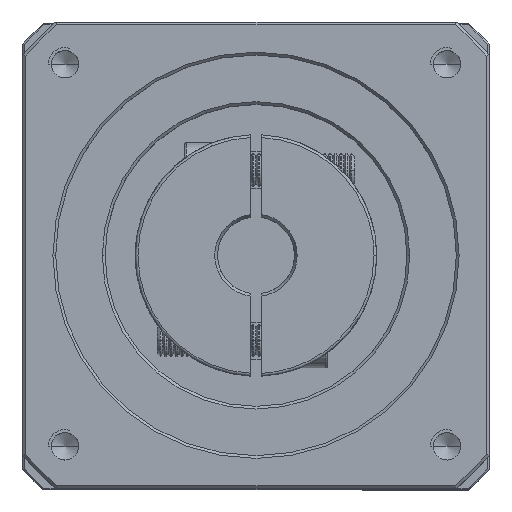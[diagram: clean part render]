
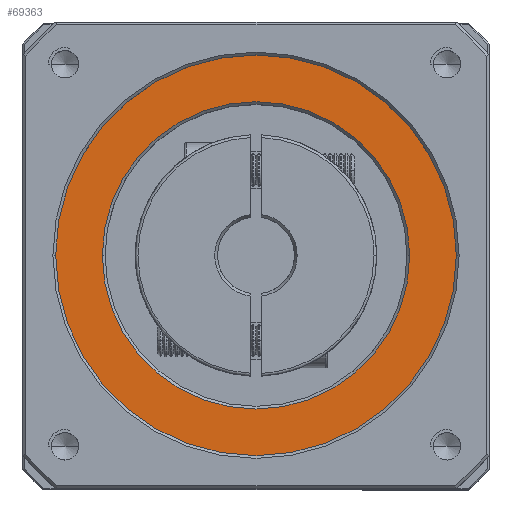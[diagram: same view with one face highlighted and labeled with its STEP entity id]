
A CAD part, top view. The second image highlights one B-rep face of the part: STEP entity #69363.
In plain terms, the highlighted planar face has unit normal (0, 0, 1).
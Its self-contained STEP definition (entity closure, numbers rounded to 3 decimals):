
#2019 = FACE_BOUND ( 'NONE', #58157, .T. ) ;
#5208 = CIRCLE ( 'NONE', #59423, 36.5 ) ;
#5695 = VERTEX_POINT ( 'NONE', #41613 ) ;
#7553 = DIRECTION ( 'NONE',  ( 1., 0., 0. ) ) ;
#9390 = VERTEX_POINT ( 'NONE', #30972 ) ;
#9737 = EDGE_CURVE ( 'NONE', #9390, #52616, #15201, .T. ) ;
#11326 = VERTEX_POINT ( 'NONE', #16796 ) ;
#15201 = CIRCLE ( 'NONE', #106233, 28. ) ;
#15596 = EDGE_CURVE ( 'NONE', #11326, #5695, #5208, .T. ) ;
#16796 = CARTESIAN_POINT ( 'NONE',  ( 81.588, 7.351, 102.5 ) ) ;
#25674 = ORIENTED_EDGE ( 'NONE', *, *, #15596, .T. ) ;
#28781 = DIRECTION ( 'NONE',  ( 0., 0., 1. ) ) ;
#29328 = ORIENTED_EDGE ( 'NONE', *, *, #67967, .T. ) ;
#30972 = CARTESIAN_POINT ( 'NONE',  ( 73.088, 7.351, 102.5 ) ) ;
#31099 = DIRECTION ( 'NONE',  ( 1., 0., 0. ) ) ;
#31334 = DIRECTION ( 'NONE',  ( 0., 0., -1. ) ) ;
#31459 = CARTESIAN_POINT ( 'NONE',  ( 45.088, 7.351, 102.5 ) ) ;
#36423 = CARTESIAN_POINT ( 'NONE',  ( 45.088, 7.351, 102.5 ) ) ;
#37347 = ORIENTED_EDGE ( 'NONE', *, *, #9737, .T. ) ;
#39784 = ORIENTED_EDGE ( 'NONE', *, *, #96899, .T. ) ;
#41393 = DIRECTION ( 'NONE',  ( 0., 0., 1. ) ) ;
#41613 = CARTESIAN_POINT ( 'NONE',  ( 8.588, 7.351, 102.5 ) ) ;
#43812 = AXIS2_PLACEMENT_3D ( 'NONE', #36423, #93960, #44745 ) ;
#44745 = DIRECTION ( 'NONE',  ( 1., 0., 0. ) ) ;
#46297 = CIRCLE ( 'NONE', #74417, 36.5 ) ;
#52616 = VERTEX_POINT ( 'NONE', #97232 ) ;
#56956 = DIRECTION ( 'NONE',  ( 0., 0., 1. ) ) ;
#58157 = EDGE_LOOP ( 'NONE', ( #37347, #39784 ) ) ;
#59423 = AXIS2_PLACEMENT_3D ( 'NONE', #106087, #56956, #7553 ) ;
#67967 = EDGE_CURVE ( 'NONE', #5695, #11326, #46297, .T. ) ;
#69363 = ADVANCED_FACE ( 'NONE', ( #92221, #2019 ), #93872, .T. ) ;
#74417 = AXIS2_PLACEMENT_3D ( 'NONE', #90604, #41393, #98860 ) ;
#78066 = CARTESIAN_POINT ( 'NONE',  ( 45.088, 7.351, 102.5 ) ) ;
#86333 = DIRECTION ( 'NONE',  ( 1., 0., 0. ) ) ;
#87387 = AXIS2_PLACEMENT_3D ( 'NONE', #78066, #28781, #86333 ) ;
#90604 = CARTESIAN_POINT ( 'NONE',  ( 45.088, 7.351, 102.5 ) ) ;
#92221 = FACE_OUTER_BOUND ( 'NONE', #100986, .T. ) ;
#93872 = PLANE ( 'NONE',  #87387 ) ;
#93960 = DIRECTION ( 'NONE',  ( 0., 0., -1. ) ) ;
#96899 = EDGE_CURVE ( 'NONE', #52616, #9390, #106699, .T. ) ;
#97232 = CARTESIAN_POINT ( 'NONE',  ( 17.088, 7.351, 102.5 ) ) ;
#98860 = DIRECTION ( 'NONE',  ( 1., 0., 0. ) ) ;
#100986 = EDGE_LOOP ( 'NONE', ( #25674, #29328 ) ) ;
#106087 = CARTESIAN_POINT ( 'NONE',  ( 45.088, 7.351, 102.5 ) ) ;
#106233 = AXIS2_PLACEMENT_3D ( 'NONE', #31459, #31334, #31099 ) ;
#106699 = CIRCLE ( 'NONE', #43812, 28. ) ;
